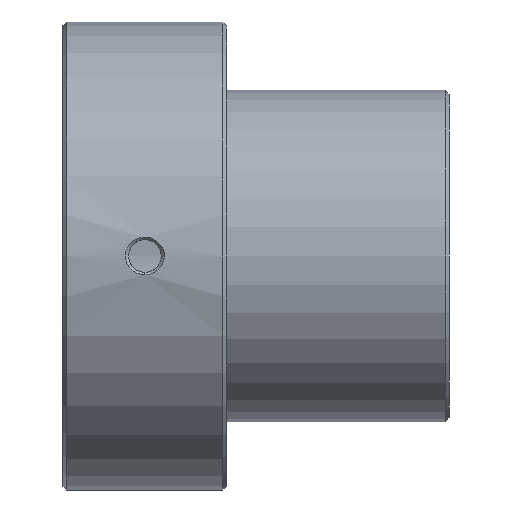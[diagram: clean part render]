
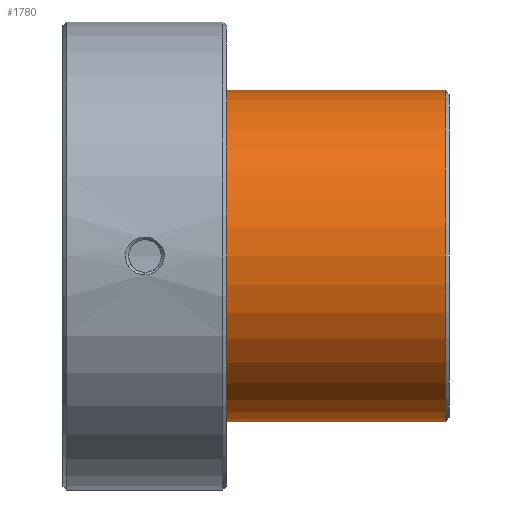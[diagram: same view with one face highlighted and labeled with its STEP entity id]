
A CAD part, front view. The second image highlights one B-rep face of the part: STEP entity #1780.
In plain terms, the highlighted cylindrical face has radius 42.5 mm (diameter 85 mm), a partial arc.
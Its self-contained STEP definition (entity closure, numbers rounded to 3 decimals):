
#902=CARTESIAN_POINT('Vertex',(42.,0.,-42.5)) ;
#907=CARTESIAN_POINT('Axis2P3D Location',(42.,0.,0.)) ;
#911=CARTESIAN_POINT('Vertex',(42.,-42.5,0.)) ;
#914=CARTESIAN_POINT('Axis2P3D Location',(42.,0.,0.)) ;
#918=CARTESIAN_POINT('Vertex',(42.,0.,42.5)) ;
#1720=CARTESIAN_POINT('Line Origine',(99.,0.,42.5)) ;
#1724=CARTESIAN_POINT('Vertex',(98.,0.,42.5)) ;
#1738=CARTESIAN_POINT('Vertex',(98.,0.,-42.5)) ;
#1741=CARTESIAN_POINT('Line Origine',(99.,0.,-42.5)) ;
#1755=CARTESIAN_POINT('Axis2P3D Location',(99.,0.,0.)) ;
#1760=CARTESIAN_POINT('Axis2P3D Location',(98.,0.,0.)) ;
#1764=CARTESIAN_POINT('Vertex',(98.,-42.5,0.)) ;
#1767=CARTESIAN_POINT('Axis2P3D Location',(98.,0.,0.)) ;
#908=DIRECTION('Axis2P3D Direction',(1.,0.,-0.)) ;
#915=DIRECTION('Axis2P3D Direction',(1.,0.,-0.)) ;
#1721=DIRECTION('Vector Direction',(-1.,0.,0.)) ;
#1742=DIRECTION('Vector Direction',(-1.,0.,0.)) ;
#1756=DIRECTION('Axis2P3D Direction',(-1.,-0.,-0.)) ;
#1757=DIRECTION('Axis2P3D XDirection',(0.,0.,-1.)) ;
#1761=DIRECTION('Axis2P3D Direction',(-1.,-0.,-0.)) ;
#1768=DIRECTION('Axis2P3D Direction',(-1.,-0.,-0.)) ;
#909=AXIS2_PLACEMENT_3D('Circle Axis2P3D',#907,#908,$) ;
#916=AXIS2_PLACEMENT_3D('Circle Axis2P3D',#914,#915,$) ;
#1758=AXIS2_PLACEMENT_3D('Cylinder Axis2P3D',#1755,#1756,#1757) ;
#1762=AXIS2_PLACEMENT_3D('Circle Axis2P3D',#1760,#1761,$) ;
#1769=AXIS2_PLACEMENT_3D('Circle Axis2P3D',#1767,#1768,$) ;
#1773=ORIENTED_EDGE('',*,*,#1745,.T.) ;
#1774=ORIENTED_EDGE('',*,*,#1766,.F.) ;
#1775=ORIENTED_EDGE('',*,*,#1771,.F.) ;
#1776=ORIENTED_EDGE('',*,*,#1726,.T.) ;
#1777=ORIENTED_EDGE('',*,*,#920,.T.) ;
#1778=ORIENTED_EDGE('',*,*,#913,.T.) ;
#1722=VECTOR('Line Direction',#1721,1.) ;
#1743=VECTOR('Line Direction',#1742,1.) ;
#1780=ADVANCED_FACE('345-63',(#1779),#1759,.T.) ;
#910=CIRCLE('generated circle',#909,42.5) ;
#917=CIRCLE('generated circle',#916,42.5) ;
#1763=CIRCLE('generated circle',#1762,42.5) ;
#1770=CIRCLE('generated circle',#1769,42.5) ;
#1759=CYLINDRICAL_SURFACE('generated cylinder',#1758,42.5) ;
#913=EDGE_CURVE('',#912,#903,#910,.T.) ;
#920=EDGE_CURVE('',#919,#912,#917,.T.) ;
#1726=EDGE_CURVE('',#1725,#919,#1723,.T.) ;
#1745=EDGE_CURVE('',#903,#1739,#1744,.F.) ;
#1766=EDGE_CURVE('',#1765,#1739,#1763,.F.) ;
#1771=EDGE_CURVE('',#1725,#1765,#1770,.F.) ;
#1772=EDGE_LOOP('',(#1773,#1774,#1775,#1776,#1777,#1778)) ;
#1779=FACE_OUTER_BOUND('',#1772,.T.) ;
#1723=LINE('Line',#1720,#1722) ;
#1744=LINE('Line',#1741,#1743) ;
#903=VERTEX_POINT('',#902) ;
#912=VERTEX_POINT('',#911) ;
#919=VERTEX_POINT('',#918) ;
#1725=VERTEX_POINT('',#1724) ;
#1739=VERTEX_POINT('',#1738) ;
#1765=VERTEX_POINT('',#1764) ;
